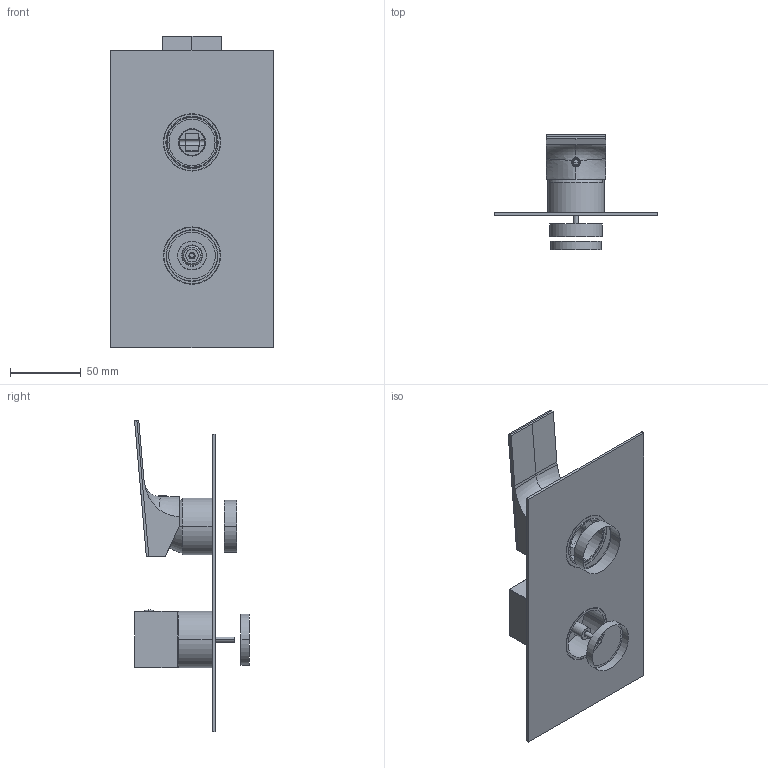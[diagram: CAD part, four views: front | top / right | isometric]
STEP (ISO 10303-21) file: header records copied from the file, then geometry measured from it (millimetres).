
FILE_DESCRIPTION((''),'2;1');
FILE_NAME('87523V2_ASM','2024-12-20T11:03:06',('volponeff'),(''),'CREO PARAMETRIC BY PTC INC, 2022014','CREO PARAMETRIC BY PTC INC, 2022014','');
FILE_SCHEMA(('CONFIG_CONTROL_DESIGN'));
Products named in the file (21): A483C20178_AF0; D465C90241_AF0; D451E50334; D514C90191_AF0; D500000882; A536A80194_AF0; D507000677_AF0; D451D50353_AF0; D451D50353_AF1; A503E90162_AF0; A503E90162_AF1; P507000679_AF0_ASM; D465000187_AF0; A302D40038_AF0; D494C90058; D460000139; D500001404_GEN; D511000162; A511000105; A536A80109; 87523V2_ASM
Assembly tree (21 placements, depth 3):
  87523V2_ASM
    A483C20178_AF0
    D465C90241_AF0
    D451E50334
    D514C90191_AF0
    D500000882
    A536A80194_AF0
    P507000679_AF0_ASM
      D507000677_AF0
      D451D50353_AF0
      D451D50353_AF1
      A503E90162_AF0
      A503E90162_AF1
    D465000187_AF0
    A302D40038_AF0
    D494C90058
    D460000139
    D500001404_GEN
    D511000162
    A511000105
    A536A80109  x2
Bounding box: 115 x 81.25 x 219.84 mm (x, y, z)
Volume: 121197.9 mm3; surface area: 117918.6 mm2
Topology: 16 solids, 27 shells, 1046 faces, 2754 edges, 1772 vertices
Faces by surface type: cylinder 425, plane 289, bspline 100, torus 70, cone 68, extrusion 68, sphere 26
Entity records: 56229 total; most frequent: CARTESIAN_POINT 32510, ORIENTED_EDGE 5139, DIRECTION 4374, EDGE_CURVE 2594, VERTEX_POINT 1681, AXIS2_PLACEMENT_3D 1560, VECTOR 1254, LINE 1186
